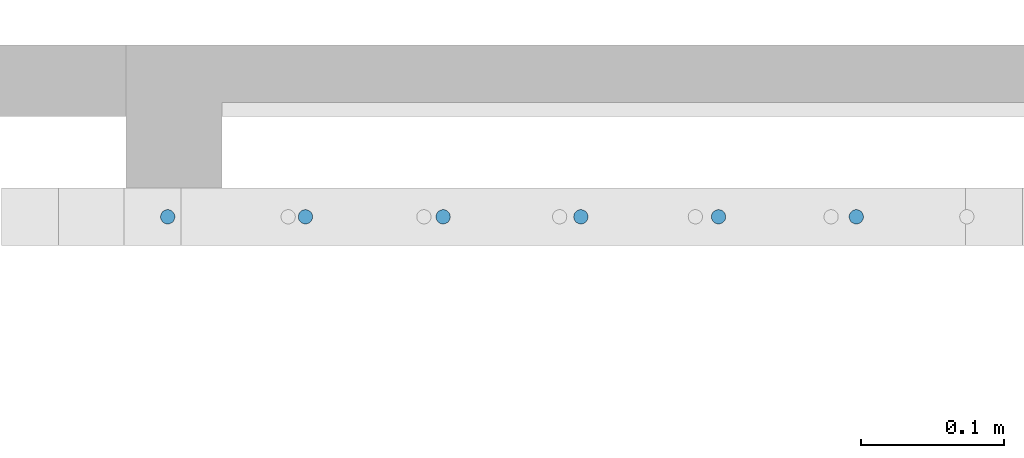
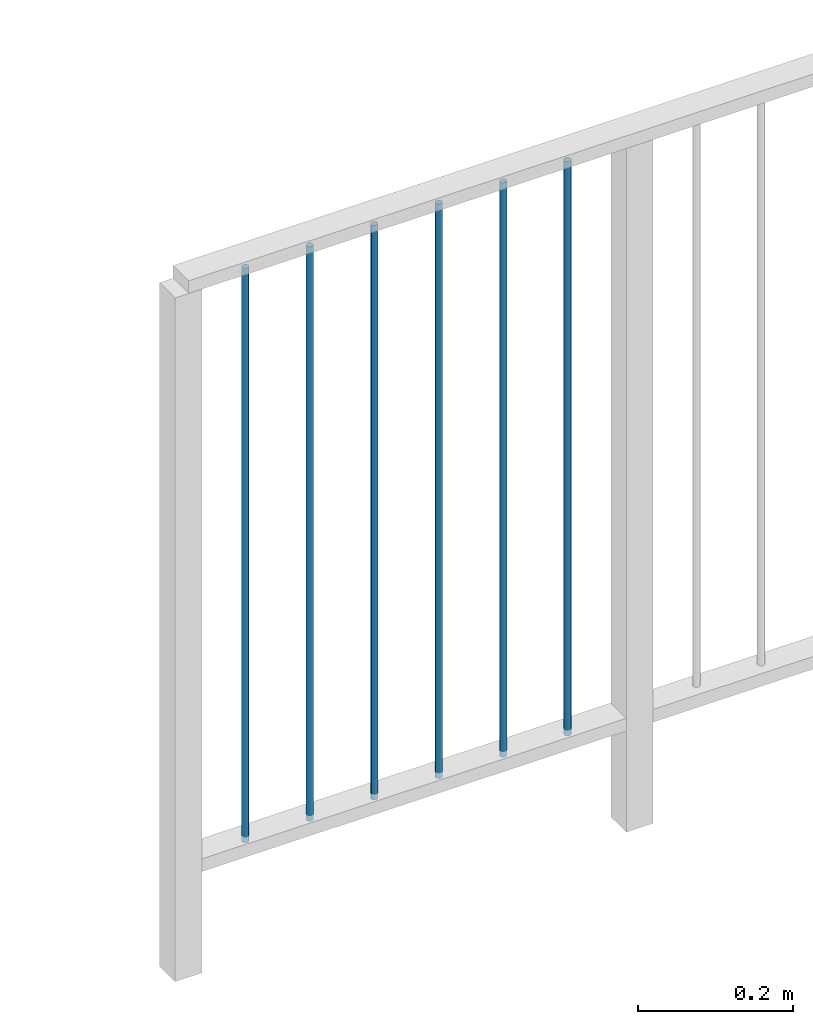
# One storey, part 20 of 135: 6 members, 1 element without a shape of its own.
"""IFC2X3 building model written with IfcOpenShell, lengths in millimetres."""

from ifc_helpers import new_model, entity, si_unit, converted_unit, derived_unit, money_unit, direction, frame, origin_with_axes, place, context, subcontext, project, spatial, faceted_brep, source, transform, mapped, material, type_object, type_shapes, element, aggregate, save


model = new_model("IFC2X3")

# Units and contexts
model_context = context("Model", 3, precision=0.01, world=origin_with_axes(), true_north=direction((0.0, 1.0)))
body_context = subcontext(model_context, "Body", "Model", "MODEL_VIEW")
ifc_project = project(units=[si_unit("LENGTHUNIT", "METRE", prefix="MILLI"), si_unit("AREAUNIT", "SQUARE_METRE"), si_unit("VOLUMEUNIT", "CUBIC_METRE"), converted_unit("PLANEANGLEUNIT", "DEGREE", entity("IfcPlaneAngleMeasure", 0.0174532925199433), si_unit("PLANEANGLEUNIT", "RADIAN"), dimensions=[0, 0, 0, 0, 0, 0, 0]), money_unit("EUR"), converted_unit("TIMEUNIT", "Year", entity("IfcTimeMeasure", 31557600.0), si_unit("TIMEUNIT", "SECOND"), dimensions=[0, 0, 1, 0, 0, 0, 0]), si_unit("MASSUNIT", "GRAM", prefix="KILO"), si_unit("THERMODYNAMICTEMPERATUREUNIT", "DEGREE_CELSIUS"), si_unit("LUMINOUSINTENSITYUNIT", "LUMEN"), si_unit("ENERGYUNIT", "JOULE", prefix="MEGA"), derived_unit("THERMALCONDUCTANCEUNIT", [(si_unit("POWERUNIT", "WATT"), 1), (si_unit("LENGTHUNIT", "METRE"), -1), (si_unit("THERMODYNAMICTEMPERATUREUNIT", "KELVIN"), -1)]), derived_unit("SPECIFICHEATCAPACITYUNIT", [(si_unit("ENERGYUNIT", "JOULE"), 1), (si_unit("MASSUNIT", "GRAM", prefix="KILO"), -1), (si_unit("THERMODYNAMICTEMPERATUREUNIT", "KELVIN"), -1)]), derived_unit("MASSDENSITYUNIT", [(si_unit("MASSUNIT", "GRAM", prefix="KILO"), 1), (si_unit("VOLUMEUNIT", "CUBIC_METRE"), -1)])], contexts=[model_context])

# Site, building, storey
site_placement = place(None, origin_with_axes())
site = spatial("IfcSite", under=ifc_project, at=site_placement, Name="Site", CompositionType="ELEMENT")
building_placement = place(site_placement, origin_with_axes())
building = spatial("IfcBuilding", under=site, at=building_placement, Name="Naam gebouw", CompositionType="ELEMENT")
storey_placement = place(building_placement, origin_with_axes())
storey = spatial("IfcBuildingStorey", under=building, at=storey_placement, Name="Begane grond N", CompositionType="ELEMENT", Elevation=0.0)

# Railing, members
railing_type = type_object("IfcRailingType", Name="Railing Type", PredefinedType="NOTDEFINED")
railing_placement = place(storey_placement, frame((56236.62159597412, 21185.9124251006, 4176.0), z_axis=(0.0, 0.0, 1.0), x_axis=(1.0, 0.0, 0.0)))
railing = element("IfcRailing", 1, at=railing_placement, inside=storey, type_object=railing_type, Name="_Reling-x", PredefinedType="NOTDEFINED")
ifc_material = material(Name="Metaal - Staal C")
member_type = type_object("IfcMemberType", Name="IfcMember", PredefinedType="MEMBER")
shared_shape = source(origin_with_axes(), body_context, "Body", "Brep", [
    faceted_brep([(0.0, -5.000000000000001, 0.0003083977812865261), (0.8682408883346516, -4.924038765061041, 0.0003037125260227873), (0.868240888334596, -4.924038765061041, 907.5003037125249), (0.0, -5.000000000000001, 907.5003083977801), (-0.868240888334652, -4.924038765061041, 0.000303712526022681), (-1.710100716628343, -4.698463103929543, 0.0002897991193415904), (-2.500000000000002, -4.330127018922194, 0.0002670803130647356), (-3.213938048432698, -3.83022221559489, 0.0002362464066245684), (-3.830222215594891, -3.213938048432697, 0.0001982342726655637), (-4.330127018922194, -2.500000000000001, 0.0001541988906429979), (-4.698463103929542, -1.710100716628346, 0.0001054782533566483), (-4.924038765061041, -0.8682408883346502, 5.355271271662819e-05), (-5.0, 0.0, 0.0), (-4.92403876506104, 0.8682408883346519, -5.355271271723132e-05), (-4.698463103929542, 1.710100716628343, -0.0001054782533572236), (-4.330127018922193, 2.500000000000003, -0.0001541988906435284), (-3.83022221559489, 3.213938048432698, -0.0001982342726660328), (-3.213938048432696, 3.830222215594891, -0.0002362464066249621), (-2.5, 4.330127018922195, -0.0002670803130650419), (-1.710100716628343, 4.698463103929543, -0.0002897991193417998), (-0.8682408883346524, 4.924038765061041, -0.0003037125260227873), (0.0, 5.000000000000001, -0.0003083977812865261), (0.8682408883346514, 4.924038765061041, -0.000303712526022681), (1.710100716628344, 4.698463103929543, -0.0002897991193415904), (2.5, 4.330127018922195, -0.0002670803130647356), (3.213938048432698, 3.83022221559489, -0.0002362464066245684), (3.83022221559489, 3.213938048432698, -0.0001982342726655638), (4.330127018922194, 2.499999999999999, -0.0001541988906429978), (4.698463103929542, 1.710100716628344, -0.0001054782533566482), (4.92403876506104, 0.8682408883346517, -5.355271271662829e-05), (5.0, 0.0, 0.0), (4.92403876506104, -0.8682408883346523, 5.355271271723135e-05), (4.698463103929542, -1.710100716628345, 0.0001054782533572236), (4.330127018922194, -2.500000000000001, 0.0001541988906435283), (3.83022221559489, -3.213938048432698, 0.0001982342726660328), (3.213938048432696, -3.830222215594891, 0.0002362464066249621), (2.5, -4.330127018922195, 0.0002670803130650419), (1.710100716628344, -4.698463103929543, 0.0002897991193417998), (1.710100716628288, -4.698463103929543, 907.5002897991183), (2.499999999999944, -4.330127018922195, 907.5002670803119), (3.213938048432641, -3.830222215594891, 907.5002362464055), (3.830222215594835, -3.213938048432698, 907.5001982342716), (4.330127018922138, -2.500000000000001, 907.5001541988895), (4.698463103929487, -1.710100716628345, 907.5001054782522), (4.924038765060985, -0.8682408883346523, 907.5000535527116), (4.999999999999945, 0.0, 907.4999999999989), (4.924038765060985, 0.8682408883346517, 907.4999464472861), (4.698463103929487, 1.710100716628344, 907.4998945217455), (4.330127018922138, 2.499999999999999, 907.4998458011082), (3.830222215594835, 3.213938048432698, 907.4998017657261), (3.213938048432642, 3.83022221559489, 907.4997637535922), (2.499999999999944, 4.330127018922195, 907.4997329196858), (1.710100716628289, 4.698463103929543, 907.4997102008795), (0.8682408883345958, 4.924038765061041, 907.4996962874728), (0.0, 5.000000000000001, 907.4996916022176), (-0.868240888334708, 4.924038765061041, 907.4996962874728), (-1.710100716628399, 4.698463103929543, 907.4997102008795), (-2.500000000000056, 4.330127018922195, 907.4997329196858), (-3.213938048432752, 3.830222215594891, 907.4997637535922), (-3.830222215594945, 3.213938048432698, 907.4998017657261), (-4.330127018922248, 2.500000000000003, 907.4998458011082), (-4.698463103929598, 1.710100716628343, 907.4998945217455), (-4.924038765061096, 0.8682408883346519, 907.4999464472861), (-5.000000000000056, 0.0, 907.4999999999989), (-4.924038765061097, -0.8682408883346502, 907.5000535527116), (-4.698463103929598, -1.710100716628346, 907.5001054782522), (-4.330127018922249, -2.500000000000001, 907.5001541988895), (-3.830222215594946, -3.213938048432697, 907.5001982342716), (-3.213938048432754, -3.83022221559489, 907.5002362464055), (-2.500000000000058, -4.330127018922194, 907.5002670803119), (-1.710100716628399, -4.698463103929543, 907.5002897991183), (-0.8682408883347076, -4.924038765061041, 907.5003037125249)], [[[0, 1, 2, 3]], [[0, 4, 5, 6, 7, 8, 9, 10, 11, 12, 13, 14, 15, 16, 17, 18, 19, 20, 21, 22, 23, 24, 25, 26, 27, 28, 29, 30, 31, 32, 33, 34, 35, 36, 37, 1]], [[1, 37, 38, 2]], [[3, 2, 38, 39, 40, 41, 42, 43, 44, 45, 46, 47, 48, 49, 50, 51, 52, 53, 54, 55, 56, 57, 58, 59, 60, 61, 62, 63, 64, 65, 66, 67, 68, 69, 70, 71]], [[4, 0, 3, 71]], [[5, 4, 71, 70]], [[6, 5, 70, 69]], [[7, 6, 69, 68]], [[8, 7, 68, 67]], [[9, 8, 67, 66]], [[10, 9, 66, 65]], [[11, 10, 65, 64]], [[12, 11, 64, 63]], [[13, 12, 63, 62]], [[14, 13, 62, 61]], [[15, 14, 61, 60]], [[16, 15, 60, 59]], [[17, 16, 59, 58]], [[18, 17, 58, 57]], [[19, 18, 57, 56]], [[20, 19, 56, 55]], [[21, 20, 55, 54]], [[22, 21, 54, 53]], [[23, 22, 53, 52]], [[24, 23, 52, 51]], [[25, 24, 51, 50]], [[26, 25, 50, 49]], [[27, 26, 49, 48]], [[28, 27, 48, 47]], [[29, 28, 47, 46]], [[30, 29, 46, 45]], [[31, 30, 45, 44]], [[32, 31, 44, 43]], [[33, 32, 43, 42]], [[34, 33, 42, 41]], [[35, 34, 41, 40]], [[36, 35, 40, 39]], [[37, 36, 39, 38]]]),
])
type_shapes(member_type, [shared_shape])
member_1_placement = place(railing_placement, frame((-1304.044480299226, 2465.000000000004, 3556.635636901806), z_axis=(0.0, 0.0, 1.0), x_axis=(1.0, 0.0, 0.0)))
member_1 = element("IfcMember", 2, at=member_1_placement, type_object=member_type, material=ifc_material, Name="_Spijlen-x", ObjectType="MEMBER", context=body_context, shape_type="MappedRepresentation", body=[
    mapped(shared_shape, transform((0.0, 0.0, 0.0), x_axis=(0.0, 1.0, 0.0), y_axis=(-1.0, 0.0, 0.0), z_axis=(0.0, 0.0, 1.0))),
])
member_2_placement = place(railing_placement, frame((-1400.340303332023, 2465.000000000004, 3556.629697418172), z_axis=(0.0, 0.0, 1.0), x_axis=(1.0, 0.0, 0.0)))
member_2 = element("IfcMember", 3, at=member_2_placement, type_object=member_type, material=ifc_material, Name="_Spijlen-x", ObjectType="MEMBER", context=body_context, shape_type="MappedRepresentation", body=[
    mapped(shared_shape, transform((0.0, 0.0, 0.0), x_axis=(0.0, 1.0, 0.0), y_axis=(-1.0, 0.0, 0.0), z_axis=(0.0, 0.0, 1.0))),
])
member_3_placement = place(railing_placement, frame((-1496.63612636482, 2465.000000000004, 3556.623757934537), z_axis=(0.0, 0.0, 1.0), x_axis=(1.0, 0.0, 0.0)))
member_3 = element("IfcMember", 4, at=member_3_placement, type_object=member_type, material=ifc_material, Name="_Spijlen-x", ObjectType="MEMBER", context=body_context, shape_type="MappedRepresentation", body=[
    mapped(shared_shape, transform((0.0, 0.0, 0.0), x_axis=(0.0, 1.0, 0.0), y_axis=(-1.0, 0.0, 0.0), z_axis=(0.0, 0.0, 1.0))),
])
member_4_placement = place(railing_placement, frame((-1592.931949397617, 2465.000000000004, 3556.617818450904), z_axis=(0.0, 0.0, 1.0), x_axis=(1.0, 0.0, 0.0)))
member_4 = element("IfcMember", 5, at=member_4_placement, type_object=member_type, material=ifc_material, Name="_Spijlen-x", ObjectType="MEMBER", context=body_context, shape_type="MappedRepresentation", body=[
    mapped(shared_shape, transform((0.0, 0.0, 0.0), x_axis=(0.0, 1.0, 0.0), y_axis=(-1.0, 0.0, 0.0), z_axis=(0.0, 0.0, 1.0))),
])
member_5_placement = place(railing_placement, frame((-1689.227772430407, 2465.000000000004, 3556.611878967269), z_axis=(0.0, 0.0, 1.0), x_axis=(1.0, 0.0, 0.0)))
member_5 = element("IfcMember", 6, at=member_5_placement, type_object=member_type, material=ifc_material, Name="_Spijlen-x", ObjectType="MEMBER", context=body_context, shape_type="MappedRepresentation", body=[
    mapped(shared_shape, transform((0.0, 0.0, 0.0), x_axis=(0.0, 1.0, 0.0), y_axis=(-1.0, 0.0, 0.0), z_axis=(0.0, 0.0, 1.0))),
])
member_6_placement = place(railing_placement, frame((-1785.523595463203, 2465.000000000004, 3556.605939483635), z_axis=(0.0, 0.0, 1.0), x_axis=(1.0, 0.0, 0.0)))
member_6 = element("IfcMember", 7, at=member_6_placement, type_object=member_type, material=ifc_material, Name="_Spijlen-x", ObjectType="MEMBER", context=body_context, shape_type="MappedRepresentation", body=[
    mapped(shared_shape, transform((0.0, 0.0, 0.0), x_axis=(0.0, 1.0, 0.0), y_axis=(-1.0, 0.0, 0.0), z_axis=(0.0, 0.0, 1.0))),
])
aggregate(railing, [member_1, member_2, member_3, member_4, member_5, member_6])

save(model, "model.ifc")
